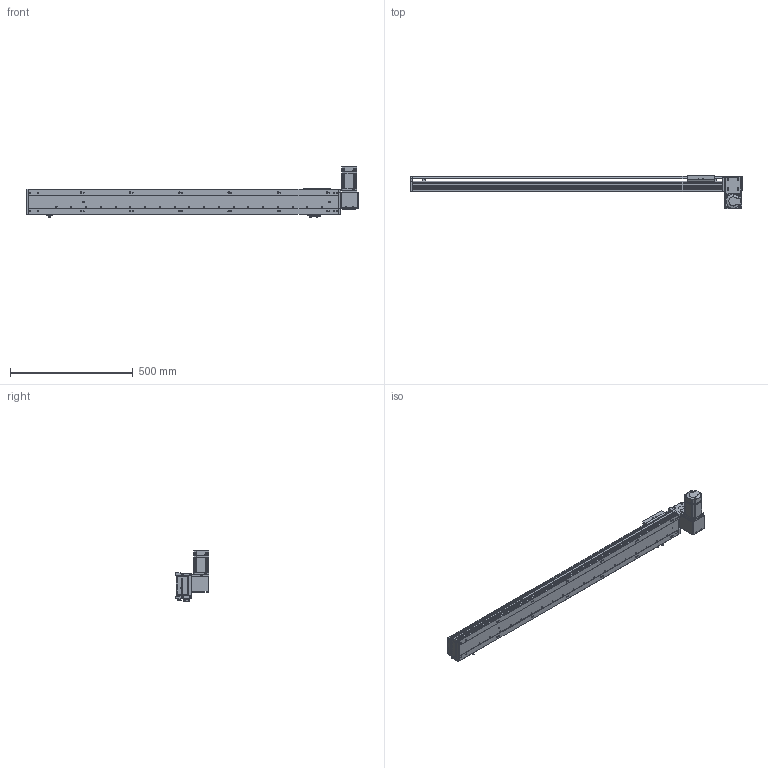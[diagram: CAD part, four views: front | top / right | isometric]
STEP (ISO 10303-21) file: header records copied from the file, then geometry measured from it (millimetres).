
FILE_DESCRIPTION (( 'STEP AP203' ), '1' );
FILE_NAME ('RY100-T-300-DR.SLDASM_1050.step', '2024-04-25T03:23:00', ( '盈信电脑' ), ( '东莞市道滘镇水果街19号' ), 'SwSTEP 2.0', 'SolidWorks 2016', '' );
FILE_SCHEMA (( 'CONFIG_CONTROL_DESIGN' ));
Length unit declared in the file: millimetre
Products named in the file (16): 覜茼ん672; RY100-T肮祭謫翋盓傅釱; RY100-T肮祭謫臏賑輸; RY100綴裔啣; RY100-T-300-RK倰第奻裔_1050; RY100-T翋肮祭謫裔啣; RY100-T左右折电机安装板; RY100-T粣創揤踡裔; RY80-T肮祭謫狟殏俋欶; RY100俋离覜茼え; 侂狟200W萇儂; 1; RY100-T-300-RK倰第菁釱_1050; RY100-T翋肮祭謫裔啣2; RY100-T-300-DR.SLDASM_1050; 滅袉蝶18-10
Assembly tree (19 placements, depth 3):
  RY100-T-300-DR.SLDASM_1050
    RY100-T-300-RK倰第菁釱_1050
    RY100-T-300-RK倰第奻裔_1050
    RY100-T肮祭謫臏賑輸
    RY100綴裔啣
    覜茼ん672  x3
    RY100俋离覜茼え
    RY100-T肮祭謫翋盓傅釱
    RY100-T左右折电机安装板
    侂狟200W萇儂
      1
    RY100-T粣創揤踡裔
    滅袉蝶18-10  x2
    RY100-T翋肮祭謫裔啣2  x2
    RY100-T翋肮祭謫裔啣
    RY80-T肮祭謫狟殏俋欶
Bounding box: 1350 x 135.5 x 209.7 mm (x, y, z)
Volume: 2724238.9 mm3; surface area: 1127945.7 mm2
Topology: 18 solids, 18 shells, 2197 faces, 6092 edges, 3956 vertices
Faces by surface type: plane 1209, cylinder 781, cone 129, bspline 78
Entity records: 69983 total; most frequent: CARTESIAN_POINT 16698, ORIENTED_EDGE 10920, DIRECTION 10424, EDGE_CURVE 5460, VERTEX_POINT 3592, VECTOR 3562, LINE 3562, AXIS2_PLACEMENT_3D 3431
